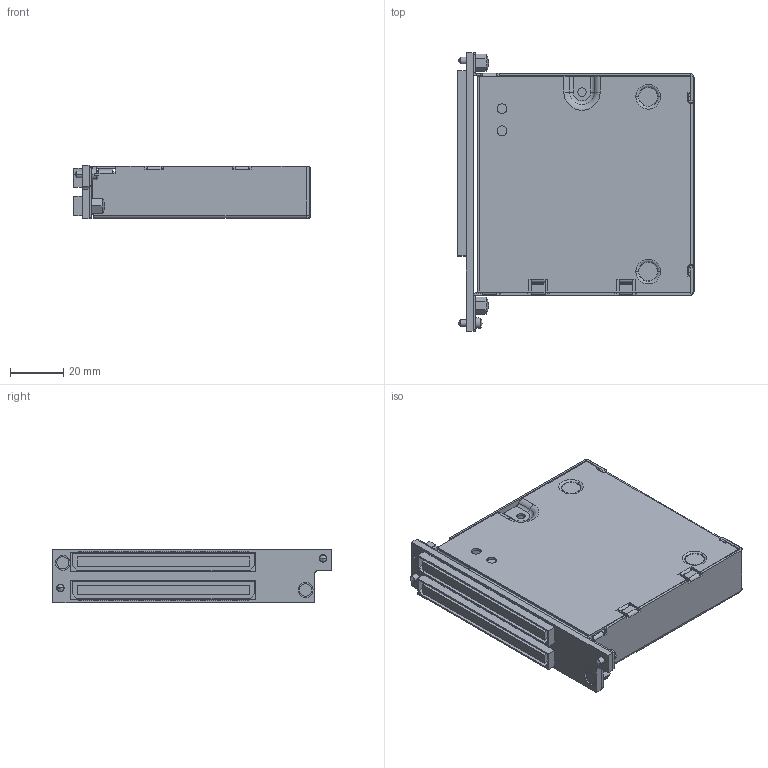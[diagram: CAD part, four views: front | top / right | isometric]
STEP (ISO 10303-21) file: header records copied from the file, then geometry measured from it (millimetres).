
FILE_DESCRIPTION((''),'2;1');
FILE_NAME('CU_TB-2642','2011-08-12T',('jjorden'),(''),'PRO/ENGINEER BY PARAMETRIC TECHNOLOGY CORPORATION, 2010230','PRO/ENGINEER BY PARAMETRIC TECHNOLOGY CORPORATION, 2010230','');
FILE_SCHEMA(('CONFIG_CONTROL_DESIGN'));
Length unit declared in the file: inch
Products named in the file (1): CU_TB-2642
Bounding box: 88.62 x 104.04 x 20.02 mm (x, y, z)
Volume: 31435.9 mm3; surface area: 44565.6 mm2
Topology: 1 solids, 1 shells, 1872 faces, 5303 edges, 3448 vertices
Faces by surface type: plane 1667, cylinder 145, cone 32, torus 20, sphere 4, revolution 4
Entity records: 60211 total; most frequent: CARTESIAN_POINT 11457, ORIENTED_EDGE 10590, DIRECTION 9373, EDGE_CURVE 5295, VECTOR 4829, LINE 4829, VERTEX_POINT 3448, AXIS2_PLACEMENT_3D 2270
